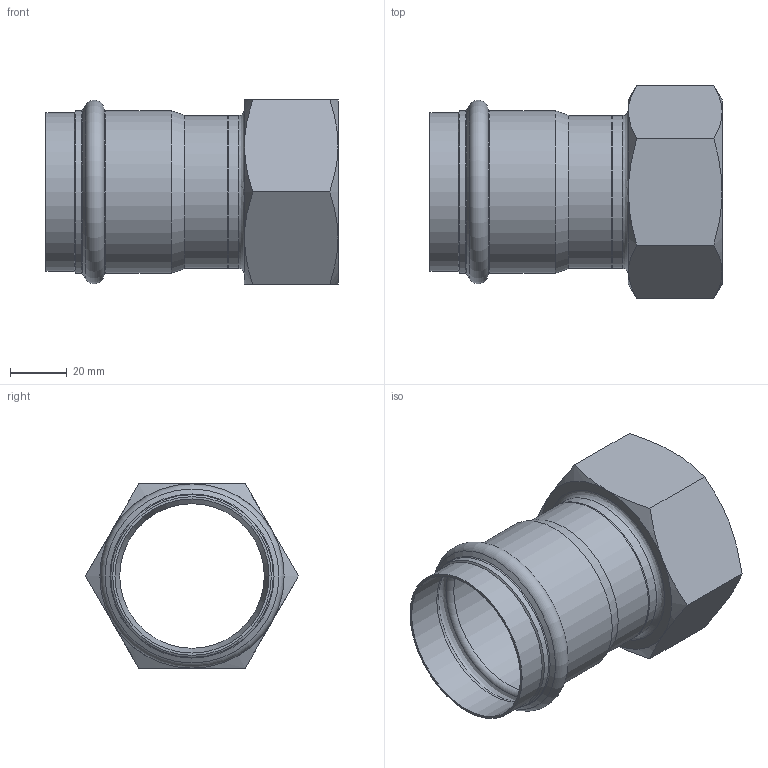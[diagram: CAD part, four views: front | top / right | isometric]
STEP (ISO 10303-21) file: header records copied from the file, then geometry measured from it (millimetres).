
FILE_DESCRIPTION((''),'2;1');
FILE_NAME('G:\Technics\CAD\Bauteile\054\69270G542(2).stp','2008-03-05T15:20:01',('herberg'),(''),'Autodesk Inventor 2008','Autodesk Inventor 2008','');
FILE_SCHEMA(('AUTOMOTIVE_DESIGN { 1 0 10303 214 1 1 1 1 }'));
Length unit declared in the file: millimetre
Products named in the file (3): 69270G542(2); 69243G54HM(1); IG542(1)
Assembly tree (2 placements, depth 2):
  69270G542(2)
    69243G54HM(1)
    IG542(1)
Bounding box: 103 x 75.06 x 65 mm (x, y, z)
Volume: 57140.4 mm3; surface area: 42245.7 mm2
Topology: 2 solids, 2 shells, 47 faces, 94 edges, 53 vertices
Faces by surface type: cone 18, plane 11, cylinder 8, bspline 7, torus 3
Full cylindrical faces by diameter (mm): 51 x1, 54 x2, 54.35 x2, 55.95 x1, 57.35 x2
Entity records: 1360 total; most frequent: CARTESIAN_POINT 471, DIRECTION 176, ORIENTED_EDGE 140, AXIS2_PLACEMENT_3D 85, EDGE_LOOP 76, EDGE_CURVE 70, VERTEX_POINT 52, FACE_OUTER_BOUND 47
